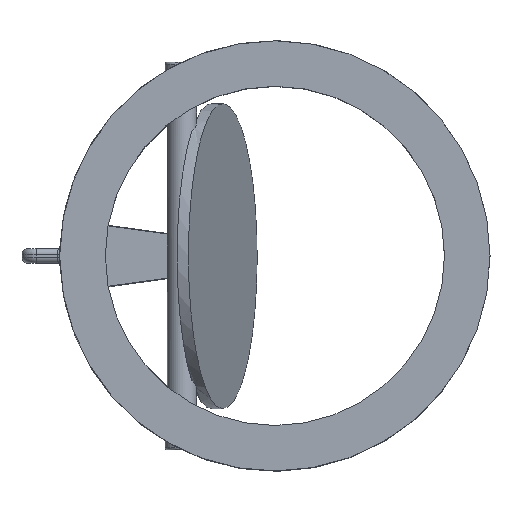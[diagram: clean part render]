
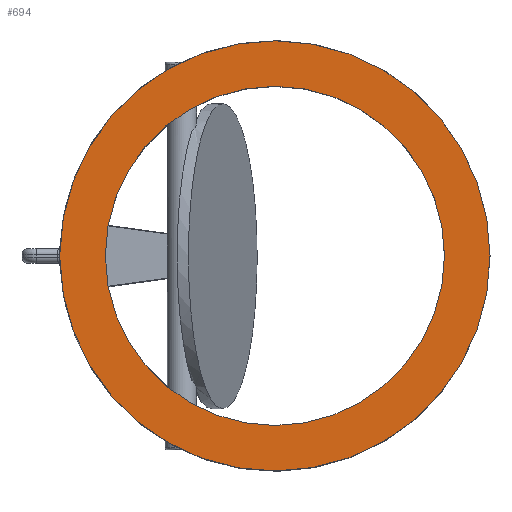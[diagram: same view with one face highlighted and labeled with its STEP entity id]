
A CAD part, top view. The second image highlights one B-rep face of the part: STEP entity #694.
In plain terms, the highlighted planar face has unit normal (0, 0, 1).
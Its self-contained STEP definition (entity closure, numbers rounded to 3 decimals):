
#694 = ADVANCED_FACE( '', ( #1463, #1464 ), #1465, .F. );
#1463 = FACE_OUTER_BOUND( '', #10942, .T. );
#1464 = FACE_BOUND( '', #10943, .T. );
#1465 = PLANE( '', #10944 );
#10942 = EDGE_LOOP( '', ( #14703, #14704 ) );
#10943 = EDGE_LOOP( '', ( #14705 ) );
#10944 = AXIS2_PLACEMENT_3D( '', #14706, #14707, #14708 );
#14703 = ORIENTED_EDGE( '', *, *, #15669, .F. );
#14704 = ORIENTED_EDGE( '', *, *, #15683, .F. );
#14705 = ORIENTED_EDGE( '', *, *, #15067, .F. );
#14706 = CARTESIAN_POINT( '', ( 0., 0., 63.5 ) );
#14707 = DIRECTION( '', ( 0., 0., -1. ) );
#14708 = DIRECTION( '', ( -1., 0., 0. ) );
#15067 = EDGE_CURVE( '', #15991, #15991, #15992, .T. );
#15669 = EDGE_CURVE( '', #16418, #16895, #16896, .T. );
#15683 = EDGE_CURVE( '', #16895, #16418, #16911, .T. );
#15991 = VERTEX_POINT( '', #18846 );
#15992 = CIRCLE( '', #18847, 175. );
#16418 = VERTEX_POINT( '', #21464 );
#16895 = VERTEX_POINT( '', #26080 );
#16896 = CIRCLE( '', #26081, 222. );
#16911 = CIRCLE( '', #26291, 222. );
#18846 = CARTESIAN_POINT( '', ( 0., -175., 63.5 ) );
#18847 = AXIS2_PLACEMENT_3D( '', #26909, #26910, #26911 );
#21464 = CARTESIAN_POINT( '', ( -221.995, -1.487, 63.5 ) );
#26080 = CARTESIAN_POINT( '', ( -221.995, 1.487, 63.5 ) );
#26081 = AXIS2_PLACEMENT_3D( '', #27089, #27090, #27091 );
#26291 = AXIS2_PLACEMENT_3D( '', #27107, #27108, #27109 );
#26909 = CARTESIAN_POINT( '', ( 0., 0., 63.5 ) );
#26910 = DIRECTION( '', ( 0., 0., 1. ) );
#26911 = DIRECTION( '', ( 0., -1., 0. ) );
#27089 = CARTESIAN_POINT( '', ( 0., 0., 63.5 ) );
#27090 = DIRECTION( '', ( 0., 0., -1. ) );
#27091 = DIRECTION( '', ( 1., 0., 0. ) );
#27107 = CARTESIAN_POINT( '', ( 0., 0., 63.5 ) );
#27108 = DIRECTION( '', ( 0., 0., -1. ) );
#27109 = DIRECTION( '', ( 1., 0., 0. ) );
